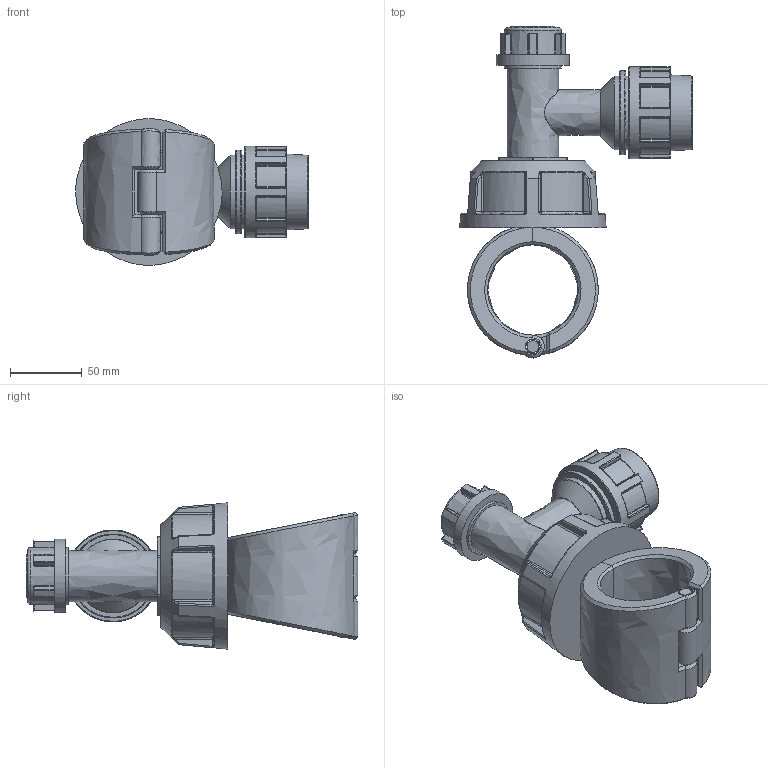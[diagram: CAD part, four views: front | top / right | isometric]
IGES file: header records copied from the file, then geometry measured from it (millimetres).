
Global section: file name: 163100063032_1631060630320A; native system: Autodesk Inventor 2019; preprocessor: unknown; author: comp2; date: 20220203.115703; units: millimetre
Bounding box: 162 x 231 x 101.84 mm (x, y, z)
Volume: 803393 mm3; surface area: 112294.4 mm2
Topology: 4 solids, 4 shells, 519 faces, 1253 edges, 754 vertices
Faces by surface type: bspline 519
